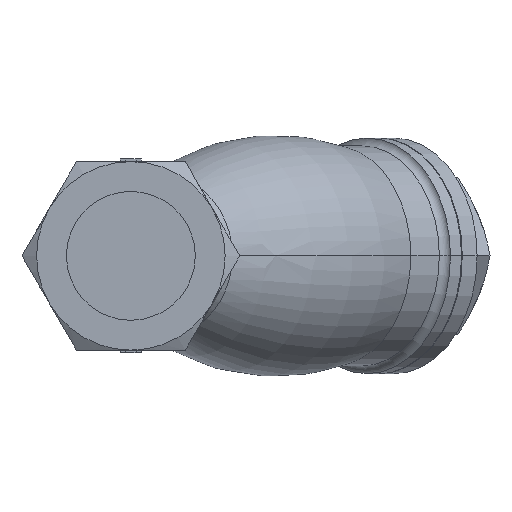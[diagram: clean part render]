
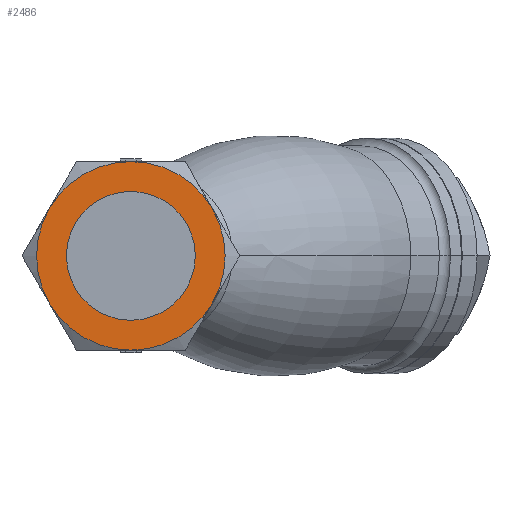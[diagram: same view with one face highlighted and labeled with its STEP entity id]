
A CAD part, left-side view. The second image highlights one B-rep face of the part: STEP entity #2486.
In plain terms, the highlighted planar face has unit normal (-1, 0, 0).
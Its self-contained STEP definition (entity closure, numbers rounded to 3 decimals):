
#16 = CIRCLE ( 'NONE', #2226, 18. ) ;
#17 = EDGE_CURVE ( 'NONE', #3763, #887, #1095, .T. ) ;
#97 = CIRCLE ( 'NONE', #3707, 18. ) ;
#130 = DIRECTION ( 'NONE',  ( 0., 0., 1. ) ) ;
#251 = EDGE_CURVE ( 'NONE', #3264, #1405, #4085, .T. ) ;
#266 = ORIENTED_EDGE ( 'NONE', *, *, #1923, .F. ) ;
#294 = CARTESIAN_POINT ( 'NONE',  ( -28., 0., 0. ) ) ;
#419 = CARTESIAN_POINT ( 'NONE',  ( -28., 0., 0. ) ) ;
#426 = FACE_BOUND ( 'NONE', #2098, .T. ) ;
#600 = DIRECTION ( 'NONE',  ( 0., 0., -1. ) ) ;
#738 = CARTESIAN_POINT ( 'NONE',  ( -28., 0., 18. ) ) ;
#750 = ORIENTED_EDGE ( 'NONE', *, *, #4270, .F. ) ;
#863 = CARTESIAN_POINT ( 'NONE',  ( -28., -15.588, 9. ) ) ;
#887 = VERTEX_POINT ( 'NONE', #1566 ) ;
#925 = CARTESIAN_POINT ( 'NONE',  ( -28., 0., 0. ) ) ;
#974 = CARTESIAN_POINT ( 'NONE',  ( -28., 0., 0. ) ) ;
#1091 = FACE_OUTER_BOUND ( 'NONE', #4255, .T. ) ;
#1095 = CIRCLE ( 'NONE', #2967, 12.3 ) ;
#1130 = AXIS2_PLACEMENT_3D ( 'NONE', #419, #2711, #3015 ) ;
#1141 = CARTESIAN_POINT ( 'NONE',  ( -28., 15.588, -9. ) ) ;
#1184 = DIRECTION ( 'NONE',  ( 0., 0., -1. ) ) ;
#1192 = AXIS2_PLACEMENT_3D ( 'NONE', #974, #3591, #4256 ) ;
#1196 = ORIENTED_EDGE ( 'NONE', *, *, #17, .F. ) ;
#1236 = EDGE_CURVE ( 'NONE', #3527, #3264, #1686, .T. ) ;
#1273 = DIRECTION ( 'NONE',  ( 0., 0., -1. ) ) ;
#1307 = DIRECTION ( 'NONE',  ( -1., 0., 0. ) ) ;
#1334 = DIRECTION ( 'NONE',  ( 0., 0., -1. ) ) ;
#1375 = CARTESIAN_POINT ( 'NONE',  ( -28., 0., 0. ) ) ;
#1405 = VERTEX_POINT ( 'NONE', #2821 ) ;
#1410 = ORIENTED_EDGE ( 'NONE', *, *, #3556, .T. ) ;
#1532 = ORIENTED_EDGE ( 'NONE', *, *, #1236, .F. ) ;
#1566 = CARTESIAN_POINT ( 'NONE',  ( -28., 0., 12.3 ) ) ;
#1669 = AXIS2_PLACEMENT_3D ( 'NONE', #294, #4250, #600 ) ;
#1686 = CIRCLE ( 'NONE', #1130, 18. ) ;
#1776 = DIRECTION ( 'NONE',  ( -1., 0., 0. ) ) ;
#1923 = EDGE_CURVE ( 'NONE', #1405, #3037, #16, .T. ) ;
#1964 = CARTESIAN_POINT ( 'NONE',  ( -28., 0., 0. ) ) ;
#2098 = EDGE_LOOP ( 'NONE', ( #4012, #1196 ) ) ;
#2208 = ORIENTED_EDGE ( 'NONE', *, *, #251, .F. ) ;
#2226 = AXIS2_PLACEMENT_3D ( 'NONE', #1964, #3280, #1334 ) ;
#2247 = CARTESIAN_POINT ( 'NONE',  ( -28., 0., 0. ) ) ;
#2378 = AXIS2_PLACEMENT_3D ( 'NONE', #1375, #2944, #1273 ) ;
#2383 = CARTESIAN_POINT ( 'NONE',  ( -28., 0., 0. ) ) ;
#2404 = DIRECTION ( 'NONE',  ( 0., 0., 1. ) ) ;
#2484 = EDGE_CURVE ( 'NONE', #4129, #3942, #3879, .T. ) ;
#2486 = ADVANCED_FACE ( 'NONE', ( #426, #1091 ), #2598, .F. ) ;
#2595 = DIRECTION ( 'NONE',  ( 1., 0., 0. ) ) ;
#2598 = PLANE ( 'NONE',  #1192 ) ;
#2665 = EDGE_CURVE ( 'NONE', #887, #3763, #2891, .T. ) ;
#2711 = DIRECTION ( 'NONE',  ( 1., 0., 0. ) ) ;
#2742 = DIRECTION ( 'NONE',  ( -1., 0., 0. ) ) ;
#2821 = CARTESIAN_POINT ( 'NONE',  ( -28., -15.588, -9. ) ) ;
#2891 = CIRCLE ( 'NONE', #2960, 12.3 ) ;
#2944 = DIRECTION ( 'NONE',  ( 1., 0., 0. ) ) ;
#2960 = AXIS2_PLACEMENT_3D ( 'NONE', #2247, #1307, #3191 ) ;
#2967 = AXIS2_PLACEMENT_3D ( 'NONE', #3776, #1776, #130 ) ;
#3015 = DIRECTION ( 'NONE',  ( 0., 0., -1. ) ) ;
#3037 = VERTEX_POINT ( 'NONE', #3430 ) ;
#3125 = CARTESIAN_POINT ( 'NONE',  ( -28., 0., -12.3 ) ) ;
#3191 = DIRECTION ( 'NONE',  ( 0., 0., 1. ) ) ;
#3264 = VERTEX_POINT ( 'NONE', #863 ) ;
#3280 = DIRECTION ( 'NONE',  ( 1., 0., 0. ) ) ;
#3430 = CARTESIAN_POINT ( 'NONE',  ( -28., 0., -18. ) ) ;
#3519 = ORIENTED_EDGE ( 'NONE', *, *, #2484, .F. ) ;
#3527 = VERTEX_POINT ( 'NONE', #738 ) ;
#3556 = EDGE_CURVE ( 'NONE', #3527, #3942, #97, .T. ) ;
#3591 = DIRECTION ( 'NONE',  ( 1., 0., 0. ) ) ;
#3707 = AXIS2_PLACEMENT_3D ( 'NONE', #2383, #2742, #2404 ) ;
#3763 = VERTEX_POINT ( 'NONE', #3125 ) ;
#3776 = CARTESIAN_POINT ( 'NONE',  ( -28., 0., 0. ) ) ;
#3879 = CIRCLE ( 'NONE', #2378, 18. ) ;
#3942 = VERTEX_POINT ( 'NONE', #4216 ) ;
#3964 = AXIS2_PLACEMENT_3D ( 'NONE', #925, #2595, #1184 ) ;
#4012 = ORIENTED_EDGE ( 'NONE', *, *, #2665, .F. ) ;
#4085 = CIRCLE ( 'NONE', #1669, 18. ) ;
#4129 = VERTEX_POINT ( 'NONE', #1141 ) ;
#4178 = CIRCLE ( 'NONE', #3964, 18. ) ;
#4216 = CARTESIAN_POINT ( 'NONE',  ( -28., 15.588, 9. ) ) ;
#4250 = DIRECTION ( 'NONE',  ( 1., 0., 0. ) ) ;
#4255 = EDGE_LOOP ( 'NONE', ( #750, #266, #2208, #1532, #1410, #3519 ) ) ;
#4256 = DIRECTION ( 'NONE',  ( 0., 0., -1. ) ) ;
#4270 = EDGE_CURVE ( 'NONE', #3037, #4129, #4178, .T. ) ;
